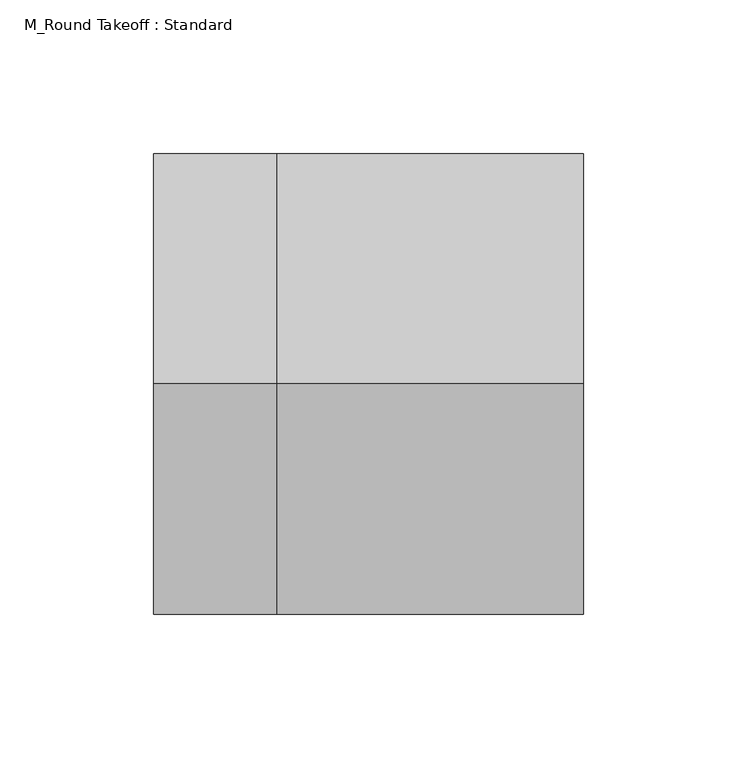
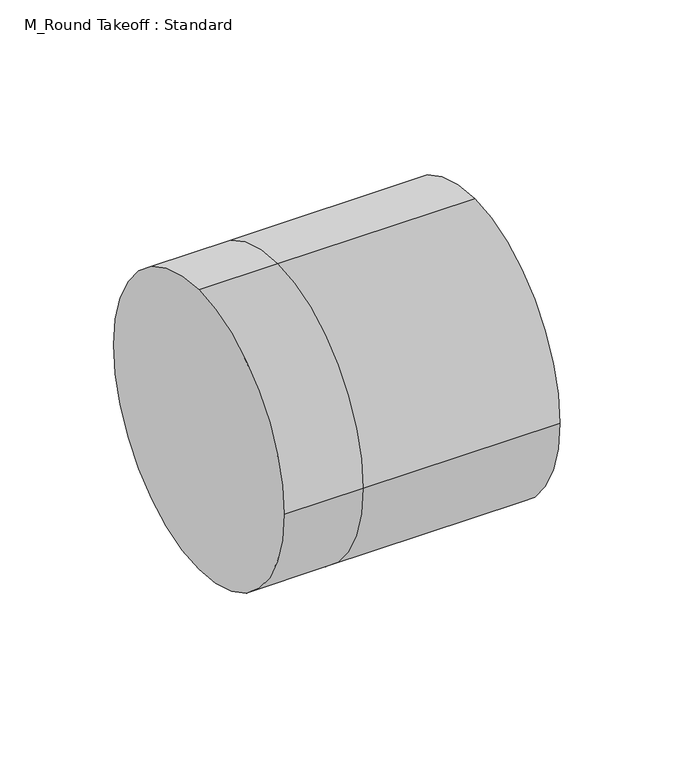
"""IFC4 building model written with IfcOpenShell, lengths in millimetres: duct fitting geometry, M_Round Takeoff : Standard."""

import ifcopenshell
import ifcopenshell.guid

model = None  # the IFC model being written
_history = None  # IfcOwnerHistory: only IFC2X3 demands one
_inside = {}  # id of a spatial element -> (the spatial element, [elements in it])
_under = {}  # id of a project, library or spatial element -> (it, [spatial elements below it])
_declared = {}  # id of a project -> (the project, [libraries it declares])
_typed = {}  # id of a type object -> (the type object, [elements of that type])
_made_of = {}  # id of a material, layer set ... -> (it, [elements and type objects made of it])


def new_model(schema):
    """Start an empty IFC model of exactly this schema.

    Asked for "IFC4X3", IfcOpenShell would pick the latest addendum, in which some entities
    have other attributes; the version numbers below select the first issue.
    IFC2X3 requires an IfcOwnerHistory on every rooted entity: one is made here for all.
    """
    global model, _history
    if schema == "IFC4X3":
        model = ifcopenshell.file(schema_version=(4, 3, 0, 0))
    else:
        model = ifcopenshell.file(schema=schema)
    _inside.clear()
    _under.clear()
    _declared.clear()
    _typed.clear()
    _made_of.clear()
    _history = None
    if model.schema == "IFC2X3":
        org = make("IfcOrganization", Name="unknown")
        user = make(
            "IfcPersonAndOrganization",
            ThePerson=make("IfcPerson", FamilyName="unknown"),
            TheOrganization=org,
        )
        app = make(
            "IfcApplication",
            ApplicationDeveloper=org,
            Version="unknown",
            ApplicationFullName="unknown",
            ApplicationIdentifier="unknown",
        )
        _history = make(
            "IfcOwnerHistory",
            OwningUser=user,
            OwningApplication=app,
            ChangeAction="ADDED",
            CreationDate=0,
        )
    return model


def make(cls, **values):
    """One entity of the class cls with the attributes given. An attribute that is None is left unset."""
    return model.create_entity(
        cls, **{name: value for name, value in values.items() if value is not None}
    )


def rooted(cls, **values):
    """An entity with a GlobalId (a new one), such as an element, a storey or a relation."""
    return make(cls, GlobalId=ifcopenshell.guid.new(), OwnerHistory=_history, **values)


def si_unit(unit_type, name, prefix=None):
    """IfcSIUnit, for example si_unit("LENGTHUNIT", "METRE", prefix="MILLI")."""
    return make("IfcSIUnit", UnitType=unit_type, Prefix=prefix, Name=name)


def assignment(units):
    """IfcUnitAssignment: the units of a project."""
    return None if units is None else make("IfcUnitAssignment", Units=units)


def point(xyz):
    """IfcCartesianPoint."""
    return None if xyz is None else make("IfcCartesianPoint", Coordinates=xyz)


def direction(xyz):
    """IfcDirection."""
    return None if xyz is None else make("IfcDirection", DirectionRatios=xyz)


def frame(location, z_axis=None, x_axis=None):
    """IfcAxis2Placement3D, a coordinate frame: its origin and axes. An axis left out is left unset."""
    return make(
        "IfcAxis2Placement3D",
        Location=point(location),
        Axis=direction(z_axis),
        RefDirection=direction(x_axis),
    )


def origin():
    """The frame at (0, 0, 0) with its axes left unset."""
    return frame((0.0, 0.0, 0.0))


def place(relative_to, where):
    """IfcLocalPlacement: puts the frame where relative to a parent placement (None: the world)."""
    return make(
        "IfcLocalPlacement", PlacementRelTo=relative_to, RelativePlacement=where
    )


def context(
    kind, dimensions, precision=None, world=None, true_north=None, identifier=None
):
    """IfcGeometricRepresentationContext, for example the 3D "Model" context."""
    return make(
        "IfcGeometricRepresentationContext",
        ContextIdentifier=identifier,
        ContextType=kind,
        CoordinateSpaceDimension=dimensions,
        Precision=precision,
        WorldCoordinateSystem=world,
        TrueNorth=true_north,
    )


def project(units=None, contexts=None):
    """IfcProject with its units and contexts."""
    return rooted(
        "IfcProject",
        Name="project",
        RepresentationContexts=contexts,
        UnitsInContext=assignment(units),
    )


def spatial(cls, under=None, at=None, **own):
    """A site, building, storey or space (cls), placed at a placement, below another one or the project."""
    s = rooted(cls, ObjectPlacement=at, **own)
    if under is not None:
        _under.setdefault(under.id(), (under, []))[1].append(s)
    return s


def circle_curve(where, radius):
    """IfcCircle in the frame where."""
    return make("IfcCircle", Position=where, Radius=radius)


def shape(context_of_items, identifier, shape_type, items):
    """IfcShapeRepresentation: the items that make up one representation, for example the "Body"."""
    return make(
        "IfcShapeRepresentation",
        ContextOfItems=context_of_items,
        RepresentationIdentifier=identifier,
        RepresentationType=shape_type,
        Items=items,
    )


def source(mapping_origin, context_of_items, identifier, shape_type, items):
    """IfcRepresentationMap: a shape defined once, which mapped items show again and again."""
    return make(
        "IfcRepresentationMap",
        MappingOrigin=mapping_origin,
        MappedRepresentation=shape(context_of_items, identifier, shape_type, items),
    )


def transform(
    local_origin,
    x_axis=None,
    y_axis=None,
    z_axis=None,
    scale=None,
    scale2=None,
    scale3=None,
    uniform=True,
):
    """IfcCartesianTransformationOperator3D, or its non-uniform kind. x_axis, y_axis, z_axis: its Axis1, 2, 3."""
    if uniform:
        return make(
            "IfcCartesianTransformationOperator3D",
            Axis1=direction(x_axis),
            Axis2=direction(y_axis),
            LocalOrigin=point(local_origin),
            Scale=scale,
            Axis3=direction(z_axis),
        )
    return make(
        "IfcCartesianTransformationOperator3DnonUniform",
        Axis1=direction(x_axis),
        Axis2=direction(y_axis),
        LocalOrigin=point(local_origin),
        Scale=scale,
        Axis3=direction(z_axis),
        Scale2=scale2,
        Scale3=scale3,
    )


def mapped(mapping_source, mapping_target):
    """IfcMappedItem: shows the shape of a source again, moved by a transform."""
    return make(
        "IfcMappedItem", MappingSource=mapping_source, MappingTarget=mapping_target
    )


def made_of(thing, what):
    """Note that an element or type object is made of a material, layer set ...; save() writes the relation."""
    if what is not None:
        _made_of.setdefault(what.id(), (what, []))[1].append(thing)
    return thing


def element(
    cls,
    number,
    at=None,
    inside=None,
    cuts=None,
    type_object=None,
    material=None,
    context=None,
    identifier="Body",
    shape_type=None,
    held_by="IfcProductDefinitionShape",
    body=None,
    shapes=None,
    **own,
):
    """One element of the class cls, such as IfcWall. Its Tag is "e" and its number.

    at: its placement. inside: the storey or other place that contains it. cuts: it is an
    opening in that element (IfcRelVoidsElement). A single representation is given by context,
    identifier, shape_type and body (its items); several are given by shapes. held_by: the class
    of the entity that holds the representations. save() writes the other relations.
    """
    e = rooted(cls, Tag="e%d" % number, ObjectPlacement=at, **own)
    if body is not None:
        shapes = [shape(context, identifier, shape_type, body)]
    if shapes is not None:
        e.Representation = make(held_by, Representations=shapes)
    if inside is not None:
        _inside.setdefault(inside.id(), (inside, []))[1].append(e)
    if cuts is not None:
        rooted(
            "IfcRelVoidsElement", RelatingBuildingElement=cuts, RelatedOpeningElement=e
        )
    if type_object is not None:
        _typed.setdefault(type_object.id(), (type_object, []))[1].append(e)
    return made_of(e, material)


def aggregate(whole, parts):
    """IfcRelAggregates: a whole, such as a stair, and the parts it consists of."""
    return rooted("IfcRelAggregates", RelatingObject=whole, RelatedObjects=parts)


def save(model, path):
    """Write the relations noted so far, then the file.

    IfcRelAggregates (storeys below a building ...), IfcRelContainedInSpatialStructure (elements
    in a storey), IfcRelDefinesByType, IfcRelAssociatesMaterial and IfcRelDeclares: one each for
    every whole, place, type object, material and project.
    """
    for whole, parts in _under.values():
        aggregate(whole, parts)
    for where, things in _inside.values():
        rooted(
            "IfcRelContainedInSpatialStructure",
            RelatedElements=things,
            RelatingStructure=where,
        )
    for kind, things in _typed.values():
        rooted("IfcRelDefinesByType", RelatedObjects=things, RelatingType=kind)
    for what, things in _made_of.values():
        rooted("IfcRelAssociatesMaterial", RelatedObjects=things, RelatingMaterial=what)
    for by, libraries in _declared.values():
        rooted("IfcRelDeclares", RelatingContext=by, RelatedDefinitions=libraries)
    model.write(path)


def plane_surface(at):
    """IfcPlane: the flat surface through the origin of the frame at, square to its z axis."""
    return make("IfcPlane", Position=at)


def cylinder_surface(at, radius):
    """IfcCylindricalSurface: all points at the distance radius from the z axis of the frame at."""
    return make("IfcCylindricalSurface", Position=at, Radius=radius)


def advanced_brep(points, edges, surfaces, faces):
    """IfcAdvancedBrep: a solid bounded by faces that lie on surfaces and meet in shared edges.

    An edge is (start, end): straight between two places in points (the first is 0);
    or (start, end, curve); or (start, end, curve, False) where it runs against its curve.
    A face is (place in surfaces, loops), or (place, loops, False) where it looks against
    its surface's normal. A loop lists edges by number (the first is 1), with a minus sign
    where the edge is run from its end to its start. The first loop is the outer one.
    """
    corners = [point(p) for p in points]
    vertices = [make("IfcVertexPoint", VertexGeometry=c) for c in corners]
    made = []
    for start, end, *more in edges:
        made.append(
            make(
                "IfcEdgeCurve",
                EdgeStart=vertices[start],
                EdgeEnd=vertices[end],
                EdgeGeometry=more[0] if more else make("IfcPolyline", Points=[corners[start], corners[end]]),
                SameSense=more[1] if len(more) > 1 else True,
            )
        )
    hull = []
    for where, loops, *sense in faces:
        bounds = []
        for j, loop in enumerate(loops):
            ring = [make("IfcOrientedEdge", EdgeElement=made[abs(k) - 1], Orientation=k > 0) for k in loop]
            bounds.append(
                make(
                    "IfcFaceOuterBound" if j == 0 else "IfcFaceBound",
                    Bound=make("IfcEdgeLoop", EdgeList=ring),
                    Orientation=True,
                )
            )
        hull.append(make("IfcAdvancedFace", Bounds=bounds, FaceSurface=surfaces[where], SameSense=sense[0] if sense else True))
    return make("IfcAdvancedBrep", Outer=make("IfcClosedShell", CfsFaces=hull))


def m_round_takeoff_standard_8779dfef(model_context):
    return source(origin(), model_context, "Body", "AdvancedBrep", [
        advanced_brep(
        [(-40.0333613, 0.0, 75.0), (-40.0333613, 75.0, 0.0), (-40.0333613, 0.0, -75.0), (-40.0333613, -75.0, 0.0), (0.0, -75.0, 0.0), (0.0, 0.0, 75.0), (0.0, 0.0, -75.0), (0.0, 75.0, 0.0), (100.0000256, 0.0, 75.0), (100.0000256, -75.0, 0.0), (100.0000256, 0.0, -75.0), (100.0000256, 75.0, 0.0)],
        [
            (0, 1, circle_curve(frame((-40.0333613, 0.0, 0.0), z_axis=(-1.0, 0.0, 0.0), x_axis=(0.0, -1.0, 0.0)), 75.0)),
            (1, 2, circle_curve(frame((-40.0333613, 0.0, 0.0), z_axis=(-1.0, 0.0, 0.0), x_axis=(0.0, -1.0, 0.0)), 75.0)),
            (2, 3, circle_curve(frame((-40.0333613, 0.0, 0.0), z_axis=(-1.0, 0.0, 0.0), x_axis=(0.0, -1.0, 0.0)), 75.0)),
            (3, 0, circle_curve(frame((-40.0333613, 0.0, 0.0), z_axis=(-1.0, 0.0, 0.0), x_axis=(0.0, -1.0, 0.0)), 75.0)),
            (3, 4),
            (4, 5, circle_curve(frame((0.0, 0.0, 0.0), z_axis=(-1.0, 0.0, 0.0), x_axis=(0.0, -1.0, 0.0)), 75.0)),
            (5, 0),
            (2, 6),
            (6, 4, circle_curve(frame((0.0, 0.0, 0.0), z_axis=(-1.0, 0.0, 0.0), x_axis=(0.0, -1.0, 0.0)), 75.0)),
            (1, 7),
            (7, 6, circle_curve(frame((0.0, 0.0, 0.0), z_axis=(-1.0, 0.0, 0.0), x_axis=(0.0, -1.0, 0.0)), 75.0)),
            (5, 7, circle_curve(frame((0.0, 0.0, 0.0), z_axis=(-1.0, 0.0, 0.0), x_axis=(0.0, -1.0, 0.0)), 75.0)),
            (8, 9, circle_curve(frame((100.0000256, 0.0, 0.0), z_axis=(1.0, 0.0, 0.0), x_axis=(0.0, -1.0, 0.0)), 75.0)),
            (9, 10, circle_curve(frame((100.0000256, 0.0, 0.0), z_axis=(1.0, 0.0, 0.0), x_axis=(0.0, -1.0, 0.0)), 75.0)),
            (10, 11, circle_curve(frame((100.0000256, 0.0, 0.0), z_axis=(1.0, 0.0, 0.0), x_axis=(0.0, -1.0, 0.0)), 75.0)),
            (11, 8, circle_curve(frame((100.0000256, 0.0, 0.0), z_axis=(1.0, 0.0, 0.0), x_axis=(0.0, -1.0, 0.0)), 75.0)),
            (8, 5),
            (4, 9),
            (6, 10),
            (7, 11),
        ],
        [
            plane_surface(frame((-40.0333613, 0.0, 0.0), z_axis=(-1.0, 0.0, 0.0), x_axis=(0.0, 0.0, 1.0))),
            cylinder_surface(frame((-40.0333613, 0.0, 0.0), z_axis=(-1.0, 0.0, 0.0), x_axis=(0.0, -1.0, 0.0)), 75.0),
            plane_surface(frame((100.0000256, 0.0, 0.0), z_axis=(1.0, 0.0, 0.0), x_axis=(0.0, 0.0, 1.0))),
            cylinder_surface(frame((0.0, 0.0, 0.0), z_axis=(-1.0, 0.0, 0.0), x_axis=(0.0, -1.0, 0.0)), 75.0),
        ],
        [
            (0, [[1, 2, 3, 4]]),
            (1, [[5, 6, 7, -4]]),
            (1, [[8, 9, -5, -3]]),
            (1, [[10, 11, -8, -2]]),
            (1, [[-7, 12, -10, -1]]),
            (2, [[13, 14, 15, 16]]),
            (3, [[17, -6, 18, -13]]),
            (3, [[-18, -9, 19, -14]]),
            (3, [[-19, -11, 20, -15]]),
            (3, [[-20, -12, -17, -16]]),
        ],
    ),
        advanced_brep(
        [(100.0000256, 0.0, 75.0), (100.0000256, -75.0, 0.0), (100.0000256, 0.0, -75.0), (100.0000256, 75.0, 0.0), (0.0, 0.0, 75.0), (0.0, -75.0, 0.0), (0.0, 0.0, -75.0), (0.0, 75.0, 0.0), (-40.0333613, 0.0, 75.0), (-40.0333613, 75.0, 0.0), (-40.0333613, 0.0, -75.0), (-40.0333613, -75.0, 0.0)],
        [
            (0, 1, circle_curve(frame((100.0000256, 0.0, 0.0), z_axis=(1.0, 0.0, 0.0), x_axis=(0.0, -1.0, 0.0)), 75.0)),
            (1, 2, circle_curve(frame((100.0000256, 0.0, 0.0), z_axis=(1.0, 0.0, 0.0), x_axis=(0.0, -1.0, 0.0)), 75.0)),
            (2, 3, circle_curve(frame((100.0000256, 0.0, 0.0), z_axis=(1.0, 0.0, 0.0), x_axis=(0.0, -1.0, 0.0)), 75.0)),
            (3, 0, circle_curve(frame((100.0000256, 0.0, 0.0), z_axis=(1.0, 0.0, 0.0), x_axis=(0.0, -1.0, 0.0)), 75.0)),
            (0, 4),
            (4, 5, circle_curve(frame((0.0, 0.0, 0.0), z_axis=(1.0, 0.0, 0.0), x_axis=(0.0, -1.0, 0.0)), 75.0)),
            (5, 1),
            (5, 6, circle_curve(frame((0.0, 0.0, 0.0), z_axis=(1.0, 0.0, 0.0), x_axis=(0.0, -1.0, 0.0)), 75.0)),
            (6, 2),
            (6, 7, circle_curve(frame((0.0, 0.0, 0.0), z_axis=(1.0, 0.0, 0.0), x_axis=(0.0, -1.0, 0.0)), 75.0)),
            (7, 3),
            (7, 4, circle_curve(frame((0.0, 0.0, 0.0), z_axis=(1.0, 0.0, 0.0), x_axis=(0.0, -1.0, 0.0)), 75.0)),
            (8, 9, circle_curve(frame((-40.0333613, 0.0, 0.0), z_axis=(-1.0, 0.0, 0.0), x_axis=(0.0, -1.0, 0.0)), 75.0)),
            (9, 10, circle_curve(frame((-40.0333613, 0.0, 0.0), z_axis=(-1.0, 0.0, 0.0), x_axis=(0.0, -1.0, 0.0)), 75.0)),
            (10, 11, circle_curve(frame((-40.0333613, 0.0, 0.0), z_axis=(-1.0, 0.0, 0.0), x_axis=(0.0, -1.0, 0.0)), 75.0)),
            (11, 8, circle_curve(frame((-40.0333613, 0.0, 0.0), z_axis=(-1.0, 0.0, 0.0), x_axis=(0.0, -1.0, 0.0)), 75.0)),
            (11, 5),
            (4, 8),
            (10, 6),
            (9, 7),
        ],
        [
            plane_surface(frame((100.0000256, 0.0, 0.0), z_axis=(1.0, 0.0, 0.0), x_axis=(0.0, 0.0, 1.0))),
            cylinder_surface(frame((0.0, 0.0, 0.0), z_axis=(-1.0, 0.0, 0.0), x_axis=(0.0, -1.0, 0.0)), 75.0),
            plane_surface(frame((-40.0333613, 0.0, 0.0), z_axis=(-1.0, 0.0, 0.0), x_axis=(0.0, 0.0, 1.0))),
            cylinder_surface(frame((-40.0333613, 0.0, 0.0), z_axis=(-1.0, 0.0, 0.0), x_axis=(0.0, -1.0, 0.0)), 75.0),
        ],
        [
            (0, [[1, 2, 3, 4]]),
            (1, [[5, 6, 7, -1]]),
            (1, [[-7, 8, 9, -2]]),
            (1, [[-9, 10, 11, -3]]),
            (1, [[-11, 12, -5, -4]]),
            (2, [[13, 14, 15, 16]]),
            (3, [[17, -6, 18, -16]]),
            (3, [[19, -8, -17, -15]]),
            (3, [[20, -10, -19, -14]]),
            (3, [[-18, -12, -20, -13]]),
        ],
    ),
        advanced_brep(
        [(-40.0333613, 0.0, 75.0), (-40.0333613, 75.0, 0.0), (-40.0333613, 0.0, -75.0), (-40.0333613, -75.0, 0.0), (0.0, -75.0, 0.0), (0.0, 0.0, 75.0), (0.0, 0.0, -75.0), (0.0, 75.0, 0.0), (100.0000256, 0.0, 75.0), (100.0000256, -75.0, 0.0), (100.0000256, 0.0, -75.0), (100.0000256, 75.0, 0.0)],
        [
            (0, 1, circle_curve(frame((-40.0333613, 0.0, 0.0), z_axis=(-1.0, 0.0, 0.0), x_axis=(0.0, -1.0, 0.0)), 75.0)),
            (1, 2, circle_curve(frame((-40.0333613, 0.0, 0.0), z_axis=(-1.0, 0.0, 0.0), x_axis=(0.0, -1.0, 0.0)), 75.0)),
            (2, 3, circle_curve(frame((-40.0333613, 0.0, 0.0), z_axis=(-1.0, 0.0, 0.0), x_axis=(0.0, -1.0, 0.0)), 75.0)),
            (3, 0, circle_curve(frame((-40.0333613, 0.0, 0.0), z_axis=(-1.0, 0.0, 0.0), x_axis=(0.0, -1.0, 0.0)), 75.0)),
            (3, 4),
            (4, 5, circle_curve(frame((0.0, 0.0, 0.0), z_axis=(-1.0, 0.0, 0.0), x_axis=(0.0, -1.0, 0.0)), 75.0)),
            (5, 0),
            (2, 6),
            (6, 4, circle_curve(frame((0.0, 0.0, 0.0), z_axis=(-1.0, 0.0, 0.0), x_axis=(0.0, -1.0, 0.0)), 75.0)),
            (1, 7),
            (7, 6, circle_curve(frame((0.0, 0.0, 0.0), z_axis=(-1.0, 0.0, 0.0), x_axis=(0.0, -1.0, 0.0)), 75.0)),
            (5, 7, circle_curve(frame((0.0, 0.0, 0.0), z_axis=(-1.0, 0.0, 0.0), x_axis=(0.0, -1.0, 0.0)), 75.0)),
            (8, 9, circle_curve(frame((100.0000256, 0.0, 0.0), z_axis=(1.0, 0.0, 0.0), x_axis=(0.0, -1.0, 0.0)), 75.0)),
            (9, 10, circle_curve(frame((100.0000256, 0.0, 0.0), z_axis=(1.0, 0.0, 0.0), x_axis=(0.0, -1.0, 0.0)), 75.0)),
            (10, 11, circle_curve(frame((100.0000256, 0.0, 0.0), z_axis=(1.0, 0.0, 0.0), x_axis=(0.0, -1.0, 0.0)), 75.0)),
            (11, 8, circle_curve(frame((100.0000256, 0.0, 0.0), z_axis=(1.0, 0.0, 0.0), x_axis=(0.0, -1.0, 0.0)), 75.0)),
            (8, 5),
            (4, 9),
            (6, 10),
            (7, 11),
        ],
        [
            plane_surface(frame((-40.0333613, 0.0, 0.0), z_axis=(-1.0, 0.0, 0.0), x_axis=(0.0, 0.0, 1.0))),
            cylinder_surface(frame((-40.0333613, 0.0, 0.0), z_axis=(-1.0, 0.0, 0.0), x_axis=(0.0, -1.0, 0.0)), 75.0),
            plane_surface(frame((100.0000256, 0.0, 0.0), z_axis=(1.0, 0.0, 0.0), x_axis=(0.0, 0.0, 1.0))),
            cylinder_surface(frame((0.0, 0.0, 0.0), z_axis=(-1.0, 0.0, 0.0), x_axis=(0.0, -1.0, 0.0)), 75.0),
        ],
        [
            (0, [[1, 2, 3, 4]]),
            (1, [[5, 6, 7, -4]]),
            (1, [[8, 9, -5, -3]]),
            (1, [[10, 11, -8, -2]]),
            (1, [[-7, 12, -10, -1]]),
            (2, [[13, 14, 15, 16]]),
            (3, [[17, -6, 18, -13]]),
            (3, [[-18, -9, 19, -14]]),
            (3, [[-19, -11, 20, -15]]),
            (3, [[-20, -12, -17, -16]]),
        ],
    ),
    ])


if __name__ == "__main__":
    model = new_model("IFC4")
    model_context = context("Model", 3, world=origin())
    ifc_project = project(units=[si_unit("LENGTHUNIT", "METRE", prefix="MILLI")], contexts=[model_context])
    site = spatial("IfcSite", under=ifc_project)
    building = spatial("IfcBuilding", under=site)
    placement = place(None, origin())
    m_round_takeoff_standard_shape = m_round_takeoff_standard_8779dfef(model_context)
    element("IfcDuctFitting", 1, ObjectType="M_Round Takeoff : Standard", at=placement, inside=building, context=model_context, shape_type="MappedRepresentation", body=[
        mapped(m_round_takeoff_standard_shape, transform((0.0, 0.0, 0.0), x_axis=(1.0, 0.0, 0.0), y_axis=(0.0, 1.0, 0.0), z_axis=(0.0, 0.0, 1.0))),
    ])
    save(model, "model.ifc")
